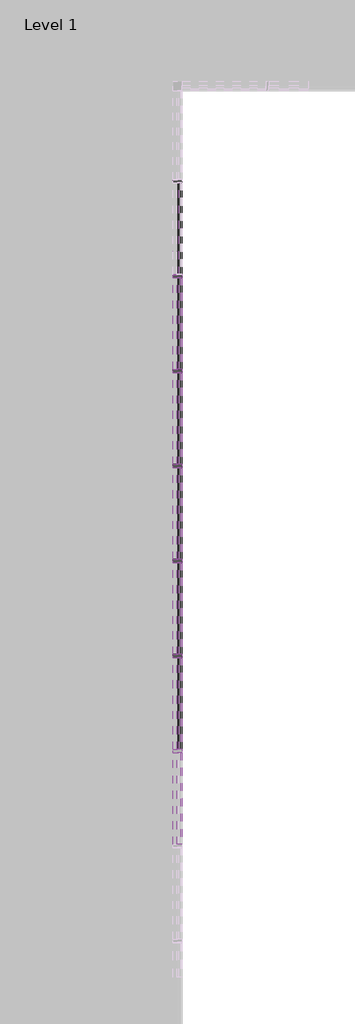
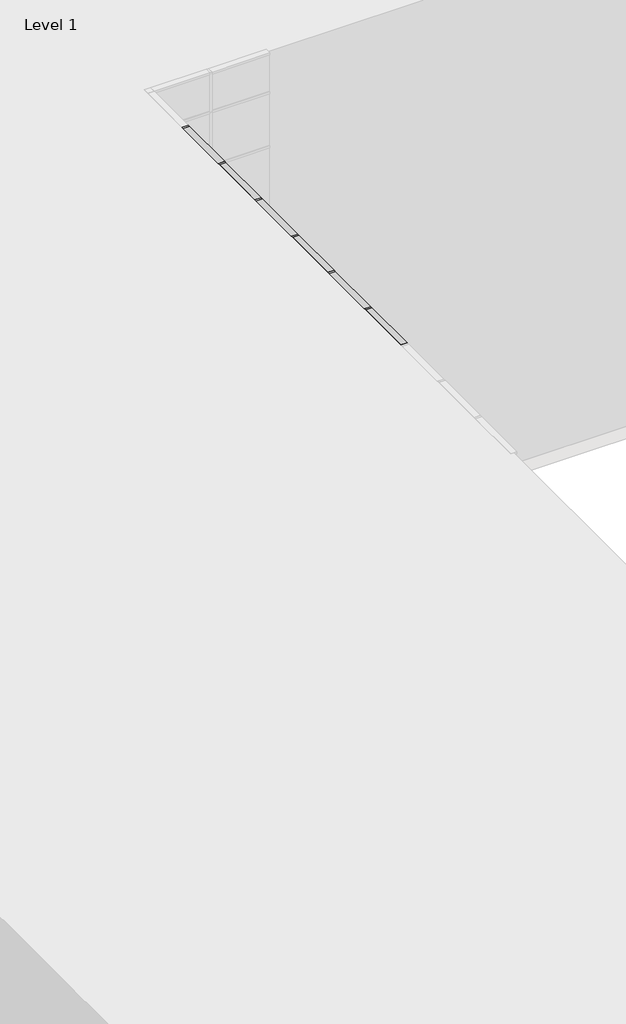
# One storey, part 13 of 18: 90 members, 41 plates.
"""IFC4 building model written with IfcOpenShell, lengths in millimetres."""

from ifc_helpers import new_model, si_unit, origin, place, context, project, spatial, transform, mapped, element, save
from components import rectangular_mullion_50mm_x_150mm_70cae3e1, rectangular_mullion_50mm_x_150mm_5226f6e8, rectangular_mullion_50mm_x_150mm_bbc1c4ea, rectangular_mullion_50mm_x_150mm_36202a7c, rectangular_mullion_50mm_x_150mm_84717ec5, system_panel_glazed_979b1f5c, system_panel_glazed_2f061a2c, system_panel_solid_7338a288, system_panel_solid_0b170172

model = new_model("IFC4")

# Units and contexts
model_context = context("Model", 3, world=origin())
ifc_project = project(units=[si_unit("LENGTHUNIT", "METRE", prefix="MILLI")], contexts=[model_context])

# Site, building, storey
site = spatial("IfcSite", under=ifc_project)
building = spatial("IfcBuilding", under=site)
storey = spatial("IfcBuildingStorey", under=building, Name="Level 1", Elevation=0.0)

# Members
placement = place(None, origin())
rectangular_mullion_50mm_x_150mm_shape = rectangular_mullion_50mm_x_150mm_70cae3e1(model_context)
element("IfcMember", 1, ObjectType="Rectangular Mullion : 50mm x 150mm", at=placement, inside=storey, context=model_context, shape_type="MappedRepresentation", body=[
    mapped(rectangular_mullion_50mm_x_150mm_shape, transform((7447.5010724, 10376.35327, 12400.0), x_axis=(0.0, 0.0, 1.0), y_axis=(1.0, 0.0, 0.0), z_axis=(0.0, 1.0, 0.0))),
])
element("IfcMember", 2, ObjectType="Rectangular Mullion : 50mm x 150mm", at=placement, inside=storey, context=model_context, shape_type="MappedRepresentation", body=[
    mapped(rectangular_mullion_50mm_x_150mm_shape, transform((7447.5010724, 11878.6009259, 12400.0), x_axis=(0.0, 0.0, 1.0), y_axis=(1.0, 0.0, 0.0), z_axis=(0.0, 1.0, 0.0))),
])
element("IfcMember", 3, ObjectType="Rectangular Mullion : 50mm x 150mm", at=placement, inside=storey, context=model_context, shape_type="MappedRepresentation", body=[
    mapped(rectangular_mullion_50mm_x_150mm_shape, transform((7447.5010724, 13380.8485819, 12400.0), x_axis=(0.0, 0.0, 1.0), y_axis=(1.0, 0.0, 0.0), z_axis=(0.0, 1.0, 0.0))),
])
element("IfcMember", 4, ObjectType="Rectangular Mullion : 50mm x 150mm", at=placement, inside=storey, context=model_context, shape_type="MappedRepresentation", body=[
    mapped(rectangular_mullion_50mm_x_150mm_shape, transform((7447.5010724, 14883.0962378, 12400.0), x_axis=(0.0, 0.0, 1.0), y_axis=(1.0, 0.0, 0.0), z_axis=(0.0, 1.0, 0.0))),
])
element("IfcMember", 5, ObjectType="Rectangular Mullion : 50mm x 150mm", at=placement, inside=storey, context=model_context, shape_type="MappedRepresentation", body=[
    mapped(rectangular_mullion_50mm_x_150mm_shape, transform((7447.5010724, 16385.3438937, 12400.0), x_axis=(0.0, 0.0, 1.0), y_axis=(1.0, 0.0, 0.0), z_axis=(0.0, 1.0, 0.0))),
])
element("IfcMember", 6, ObjectType="Rectangular Mullion : 50mm x 150mm", at=placement, inside=storey, context=model_context, shape_type="MappedRepresentation", body=[
    mapped(rectangular_mullion_50mm_x_150mm_shape, transform((7447.5010724, 17887.5915497, 12400.0), x_axis=(0.0, 0.0, 1.0), y_axis=(1.0, 0.0, 0.0), z_axis=(0.0, 1.0, 0.0))),
])
element("IfcMember", 7, ObjectType="Rectangular Mullion : 50mm x 150mm", at=placement, inside=storey, context=model_context, shape_type="MappedRepresentation", body=[
    mapped(rectangular_mullion_50mm_x_150mm_shape, transform((7447.5010724, 8924.1056141, 0.0), x_axis=(0.0, 0.0, -1.0), y_axis=(1.0, 0.0, 0.0), z_axis=(0.0, -1.0, 0.0))),
])
element("IfcMember", 8, ObjectType="Rectangular Mullion : 50mm x 150mm", at=placement, inside=storey, context=model_context, shape_type="MappedRepresentation", body=[
    mapped(rectangular_mullion_50mm_x_150mm_shape, transform((7447.5010724, 10426.35327, 0.0), x_axis=(0.0, 0.0, -1.0), y_axis=(1.0, 0.0, 0.0), z_axis=(0.0, -1.0, 0.0))),
])
element("IfcMember", 9, ObjectType="Rectangular Mullion : 50mm x 150mm", at=placement, inside=storey, context=model_context, shape_type="MappedRepresentation", body=[
    mapped(rectangular_mullion_50mm_x_150mm_shape, transform((7447.5010724, 11928.6009259, 0.0), x_axis=(0.0, 0.0, -1.0), y_axis=(1.0, 0.0, 0.0), z_axis=(0.0, -1.0, 0.0))),
])
element("IfcMember", 10, ObjectType="Rectangular Mullion : 50mm x 150mm", at=placement, inside=storey, context=model_context, shape_type="MappedRepresentation", body=[
    mapped(rectangular_mullion_50mm_x_150mm_shape, transform((7447.5010724, 13430.8485819, 0.0), x_axis=(0.0, 0.0, -1.0), y_axis=(1.0, 0.0, 0.0), z_axis=(0.0, -1.0, 0.0))),
])
element("IfcMember", 11, ObjectType="Rectangular Mullion : 50mm x 150mm", at=placement, inside=storey, context=model_context, shape_type="MappedRepresentation", body=[
    mapped(rectangular_mullion_50mm_x_150mm_shape, transform((7447.5010724, 14933.0962378, 0.0), x_axis=(0.0, 0.0, -1.0), y_axis=(1.0, 0.0, 0.0), z_axis=(0.0, -1.0, 0.0))),
])
element("IfcMember", 12, ObjectType="Rectangular Mullion : 50mm x 150mm", at=placement, inside=storey, context=model_context, shape_type="MappedRepresentation", body=[
    mapped(rectangular_mullion_50mm_x_150mm_shape, transform((7447.5010724, 16435.3438937, 0.0), x_axis=(0.0, 0.0, -1.0), y_axis=(1.0, 0.0, 0.0), z_axis=(0.0, -1.0, 0.0))),
])
rectangular_mullion_50mm_x_150mm_2_shape = rectangular_mullion_50mm_x_150mm_5226f6e8(model_context)
element("IfcMember", 13, ObjectType="Rectangular Mullion : 50mm x 150mm", at=placement, inside=storey, context=model_context, shape_type="MappedRepresentation", body=[
    mapped(rectangular_mullion_50mm_x_150mm_2_shape, transform((7447.5010724, 10376.35327, 3800.0), x_axis=(0.0, 0.0, 1.0), y_axis=(1.0, 0.0, 0.0), z_axis=(0.0, 1.0, 0.0))),
])
element("IfcMember", 14, ObjectType="Rectangular Mullion : 50mm x 150mm", at=placement, inside=storey, context=model_context, shape_type="MappedRepresentation", body=[
    mapped(rectangular_mullion_50mm_x_150mm_2_shape, transform((7447.5010724, 11878.6009259, 3800.0), x_axis=(0.0, 0.0, 1.0), y_axis=(1.0, 0.0, 0.0), z_axis=(0.0, 1.0, 0.0))),
])
element("IfcMember", 15, ObjectType="Rectangular Mullion : 50mm x 150mm", at=placement, inside=storey, context=model_context, shape_type="MappedRepresentation", body=[
    mapped(rectangular_mullion_50mm_x_150mm_2_shape, transform((7447.5010724, 13380.8485819, 3800.0), x_axis=(0.0, 0.0, 1.0), y_axis=(1.0, 0.0, 0.0), z_axis=(0.0, 1.0, 0.0))),
])
element("IfcMember", 16, ObjectType="Rectangular Mullion : 50mm x 150mm", at=placement, inside=storey, context=model_context, shape_type="MappedRepresentation", body=[
    mapped(rectangular_mullion_50mm_x_150mm_2_shape, transform((7447.5010724, 14883.0962378, 3800.0), x_axis=(0.0, 0.0, 1.0), y_axis=(1.0, 0.0, 0.0), z_axis=(0.0, 1.0, 0.0))),
])
element("IfcMember", 17, ObjectType="Rectangular Mullion : 50mm x 150mm", at=placement, inside=storey, context=model_context, shape_type="MappedRepresentation", body=[
    mapped(rectangular_mullion_50mm_x_150mm_2_shape, transform((7447.5010724, 16385.3438937, 3800.0), x_axis=(0.0, 0.0, 1.0), y_axis=(1.0, 0.0, 0.0), z_axis=(0.0, 1.0, 0.0))),
])
element("IfcMember", 18, ObjectType="Rectangular Mullion : 50mm x 150mm", at=placement, inside=storey, context=model_context, shape_type="MappedRepresentation", body=[
    mapped(rectangular_mullion_50mm_x_150mm_2_shape, transform((7447.5010724, 17887.5915497, 3800.0), x_axis=(0.0, 0.0, 1.0), y_axis=(1.0, 0.0, 0.0), z_axis=(0.0, 1.0, 0.0))),
])
element("IfcMember", 19, ObjectType="Rectangular Mullion : 50mm x 150mm", at=placement, inside=storey, context=model_context, shape_type="MappedRepresentation", body=[
    mapped(rectangular_mullion_50mm_x_150mm_2_shape, transform((7447.5010724, 10376.35327, 7600.0), x_axis=(0.0, 0.0, 1.0), y_axis=(1.0, 0.0, 0.0), z_axis=(0.0, 1.0, 0.0))),
])
element("IfcMember", 20, ObjectType="Rectangular Mullion : 50mm x 150mm", at=placement, inside=storey, context=model_context, shape_type="MappedRepresentation", body=[
    mapped(rectangular_mullion_50mm_x_150mm_2_shape, transform((7447.5010724, 11878.6009259, 7600.0), x_axis=(0.0, 0.0, 1.0), y_axis=(1.0, 0.0, 0.0), z_axis=(0.0, 1.0, 0.0))),
])
element("IfcMember", 21, ObjectType="Rectangular Mullion : 50mm x 150mm", at=placement, inside=storey, context=model_context, shape_type="MappedRepresentation", body=[
    mapped(rectangular_mullion_50mm_x_150mm_2_shape, transform((7447.5010724, 13380.8485819, 7600.0), x_axis=(0.0, 0.0, 1.0), y_axis=(1.0, 0.0, 0.0), z_axis=(0.0, 1.0, 0.0))),
])
element("IfcMember", 22, ObjectType="Rectangular Mullion : 50mm x 150mm", at=placement, inside=storey, context=model_context, shape_type="MappedRepresentation", body=[
    mapped(rectangular_mullion_50mm_x_150mm_2_shape, transform((7447.5010724, 14883.0962378, 7600.0), x_axis=(0.0, 0.0, 1.0), y_axis=(1.0, 0.0, 0.0), z_axis=(0.0, 1.0, 0.0))),
])
element("IfcMember", 23, ObjectType="Rectangular Mullion : 50mm x 150mm", at=placement, inside=storey, context=model_context, shape_type="MappedRepresentation", body=[
    mapped(rectangular_mullion_50mm_x_150mm_2_shape, transform((7447.5010724, 16385.3438937, 7600.0), x_axis=(0.0, 0.0, 1.0), y_axis=(1.0, 0.0, 0.0), z_axis=(0.0, 1.0, 0.0))),
])
element("IfcMember", 24, ObjectType="Rectangular Mullion : 50mm x 150mm", at=placement, inside=storey, context=model_context, shape_type="MappedRepresentation", body=[
    mapped(rectangular_mullion_50mm_x_150mm_2_shape, transform((7447.5010724, 17887.5915497, 7600.0), x_axis=(0.0, 0.0, 1.0), y_axis=(1.0, 0.0, 0.0), z_axis=(0.0, 1.0, 0.0))),
])
element("IfcMember", 25, ObjectType="Rectangular Mullion : 50mm x 150mm", at=placement, inside=storey, context=model_context, shape_type="MappedRepresentation", body=[
    mapped(rectangular_mullion_50mm_x_150mm_2_shape, transform((7447.5010724, 10376.35327, 11400.0), x_axis=(0.0, 0.0, 1.0), y_axis=(1.0, 0.0, 0.0), z_axis=(0.0, 1.0, 0.0))),
])
element("IfcMember", 26, ObjectType="Rectangular Mullion : 50mm x 150mm", at=placement, inside=storey, context=model_context, shape_type="MappedRepresentation", body=[
    mapped(rectangular_mullion_50mm_x_150mm_2_shape, transform((7447.5010724, 11878.6009259, 11400.0), x_axis=(0.0, 0.0, 1.0), y_axis=(1.0, 0.0, 0.0), z_axis=(0.0, 1.0, 0.0))),
])
element("IfcMember", 27, ObjectType="Rectangular Mullion : 50mm x 150mm", at=placement, inside=storey, context=model_context, shape_type="MappedRepresentation", body=[
    mapped(rectangular_mullion_50mm_x_150mm_2_shape, transform((7447.5010724, 13380.8485819, 11400.0), x_axis=(0.0, 0.0, 1.0), y_axis=(1.0, 0.0, 0.0), z_axis=(0.0, 1.0, 0.0))),
])
element("IfcMember", 28, ObjectType="Rectangular Mullion : 50mm x 150mm", at=placement, inside=storey, context=model_context, shape_type="MappedRepresentation", body=[
    mapped(rectangular_mullion_50mm_x_150mm_2_shape, transform((7447.5010724, 14883.0962378, 11400.0), x_axis=(0.0, 0.0, 1.0), y_axis=(1.0, 0.0, 0.0), z_axis=(0.0, 1.0, 0.0))),
])
element("IfcMember", 29, ObjectType="Rectangular Mullion : 50mm x 150mm", at=placement, inside=storey, context=model_context, shape_type="MappedRepresentation", body=[
    mapped(rectangular_mullion_50mm_x_150mm_2_shape, transform((7447.5010724, 16385.3438937, 11400.0), x_axis=(0.0, 0.0, 1.0), y_axis=(1.0, 0.0, 0.0), z_axis=(0.0, 1.0, 0.0))),
])
element("IfcMember", 30, ObjectType="Rectangular Mullion : 50mm x 150mm", at=placement, inside=storey, context=model_context, shape_type="MappedRepresentation", body=[
    mapped(rectangular_mullion_50mm_x_150mm_2_shape, transform((7447.5010724, 17887.5915497, 11400.0), x_axis=(0.0, 0.0, 1.0), y_axis=(1.0, 0.0, 0.0), z_axis=(0.0, 1.0, 0.0))),
])
element("IfcMember", 31, ObjectType="Rectangular Mullion : 50mm x 150mm", at=placement, inside=storey, context=model_context, shape_type="MappedRepresentation", body=[
    mapped(rectangular_mullion_50mm_x_150mm_2_shape, transform((7447.5010724, 10376.35327, 10040.0), x_axis=(0.0, 0.0, 1.0), y_axis=(1.0, 0.0, 0.0), z_axis=(0.0, 1.0, 0.0))),
])
element("IfcMember", 32, ObjectType="Rectangular Mullion : 50mm x 150mm", at=placement, inside=storey, context=model_context, shape_type="MappedRepresentation", body=[
    mapped(rectangular_mullion_50mm_x_150mm_2_shape, transform((7447.5010724, 11878.6009259, 10040.0), x_axis=(0.0, 0.0, 1.0), y_axis=(1.0, 0.0, 0.0), z_axis=(0.0, 1.0, 0.0))),
])
element("IfcMember", 33, ObjectType="Rectangular Mullion : 50mm x 150mm", at=placement, inside=storey, context=model_context, shape_type="MappedRepresentation", body=[
    mapped(rectangular_mullion_50mm_x_150mm_2_shape, transform((7447.5010724, 13380.8485819, 10040.0), x_axis=(0.0, 0.0, 1.0), y_axis=(1.0, 0.0, 0.0), z_axis=(0.0, 1.0, 0.0))),
])
element("IfcMember", 34, ObjectType="Rectangular Mullion : 50mm x 150mm", at=placement, inside=storey, context=model_context, shape_type="MappedRepresentation", body=[
    mapped(rectangular_mullion_50mm_x_150mm_2_shape, transform((7447.5010724, 14883.0962378, 10040.0), x_axis=(0.0, 0.0, 1.0), y_axis=(1.0, 0.0, 0.0), z_axis=(0.0, 1.0, 0.0))),
])
element("IfcMember", 35, ObjectType="Rectangular Mullion : 50mm x 150mm", at=placement, inside=storey, context=model_context, shape_type="MappedRepresentation", body=[
    mapped(rectangular_mullion_50mm_x_150mm_2_shape, transform((7447.5010724, 16385.3438937, 10040.0), x_axis=(0.0, 0.0, 1.0), y_axis=(1.0, 0.0, 0.0), z_axis=(0.0, 1.0, 0.0))),
])
element("IfcMember", 36, ObjectType="Rectangular Mullion : 50mm x 150mm", at=placement, inside=storey, context=model_context, shape_type="MappedRepresentation", body=[
    mapped(rectangular_mullion_50mm_x_150mm_2_shape, transform((7447.5010724, 17887.5915497, 10040.0), x_axis=(0.0, 0.0, 1.0), y_axis=(1.0, 0.0, 0.0), z_axis=(0.0, 1.0, 0.0))),
])
element("IfcMember", 37, ObjectType="Rectangular Mullion : 50mm x 150mm", at=placement, inside=storey, context=model_context, shape_type="MappedRepresentation", body=[
    mapped(rectangular_mullion_50mm_x_150mm_2_shape, transform((7447.5010724, 8874.1056141, 6240.0), x_axis=(0.0, 0.0, 1.0), y_axis=(1.0, 0.0, 0.0), z_axis=(0.0, 1.0, 0.0))),
])
element("IfcMember", 38, ObjectType="Rectangular Mullion : 50mm x 150mm", at=placement, inside=storey, context=model_context, shape_type="MappedRepresentation", body=[
    mapped(rectangular_mullion_50mm_x_150mm_2_shape, transform((7447.5010724, 10376.35327, 6240.0), x_axis=(0.0, 0.0, 1.0), y_axis=(1.0, 0.0, 0.0), z_axis=(0.0, 1.0, 0.0))),
])
element("IfcMember", 39, ObjectType="Rectangular Mullion : 50mm x 150mm", at=placement, inside=storey, context=model_context, shape_type="MappedRepresentation", body=[
    mapped(rectangular_mullion_50mm_x_150mm_2_shape, transform((7447.5010724, 11878.6009259, 6240.0), x_axis=(0.0, 0.0, 1.0), y_axis=(1.0, 0.0, 0.0), z_axis=(0.0, 1.0, 0.0))),
])
element("IfcMember", 40, ObjectType="Rectangular Mullion : 50mm x 150mm", at=placement, inside=storey, context=model_context, shape_type="MappedRepresentation", body=[
    mapped(rectangular_mullion_50mm_x_150mm_2_shape, transform((7447.5010724, 13380.8485819, 6240.0), x_axis=(0.0, 0.0, 1.0), y_axis=(1.0, 0.0, 0.0), z_axis=(0.0, 1.0, 0.0))),
])
element("IfcMember", 41, ObjectType="Rectangular Mullion : 50mm x 150mm", at=placement, inside=storey, context=model_context, shape_type="MappedRepresentation", body=[
    mapped(rectangular_mullion_50mm_x_150mm_2_shape, transform((7447.5010724, 14883.0962378, 6240.0), x_axis=(0.0, 0.0, 1.0), y_axis=(1.0, 0.0, 0.0), z_axis=(0.0, 1.0, 0.0))),
])
element("IfcMember", 42, ObjectType="Rectangular Mullion : 50mm x 150mm", at=placement, inside=storey, context=model_context, shape_type="MappedRepresentation", body=[
    mapped(rectangular_mullion_50mm_x_150mm_2_shape, transform((7447.5010724, 16385.3438937, 6240.0), x_axis=(0.0, 0.0, 1.0), y_axis=(1.0, 0.0, 0.0), z_axis=(0.0, 1.0, 0.0))),
])
element("IfcMember", 43, ObjectType="Rectangular Mullion : 50mm x 150mm", at=placement, inside=storey, context=model_context, shape_type="MappedRepresentation", body=[
    mapped(rectangular_mullion_50mm_x_150mm_2_shape, transform((7447.5010724, 8874.1056141, 2440.0), x_axis=(0.0, 0.0, 1.0), y_axis=(1.0, 0.0, 0.0), z_axis=(0.0, 1.0, 0.0))),
])
element("IfcMember", 44, ObjectType="Rectangular Mullion : 50mm x 150mm", at=placement, inside=storey, context=model_context, shape_type="MappedRepresentation", body=[
    mapped(rectangular_mullion_50mm_x_150mm_2_shape, transform((7447.5010724, 10376.35327, 2440.0), x_axis=(0.0, 0.0, 1.0), y_axis=(1.0, 0.0, 0.0), z_axis=(0.0, 1.0, 0.0))),
])
element("IfcMember", 45, ObjectType="Rectangular Mullion : 50mm x 150mm", at=placement, inside=storey, context=model_context, shape_type="MappedRepresentation", body=[
    mapped(rectangular_mullion_50mm_x_150mm_2_shape, transform((7447.5010724, 11878.6009259, 2440.0), x_axis=(0.0, 0.0, 1.0), y_axis=(1.0, 0.0, 0.0), z_axis=(0.0, 1.0, 0.0))),
])
element("IfcMember", 46, ObjectType="Rectangular Mullion : 50mm x 150mm", at=placement, inside=storey, context=model_context, shape_type="MappedRepresentation", body=[
    mapped(rectangular_mullion_50mm_x_150mm_2_shape, transform((7447.5010724, 13380.8485819, 2440.0), x_axis=(0.0, 0.0, 1.0), y_axis=(1.0, 0.0, 0.0), z_axis=(0.0, 1.0, 0.0))),
])
element("IfcMember", 47, ObjectType="Rectangular Mullion : 50mm x 150mm", at=placement, inside=storey, context=model_context, shape_type="MappedRepresentation", body=[
    mapped(rectangular_mullion_50mm_x_150mm_2_shape, transform((7447.5010724, 14883.0962378, 2440.0), x_axis=(0.0, 0.0, 1.0), y_axis=(1.0, 0.0, 0.0), z_axis=(0.0, 1.0, 0.0))),
])
element("IfcMember", 48, ObjectType="Rectangular Mullion : 50mm x 150mm", at=placement, inside=storey, context=model_context, shape_type="MappedRepresentation", body=[
    mapped(rectangular_mullion_50mm_x_150mm_2_shape, transform((7447.5010724, 16385.3438937, 2440.0), x_axis=(0.0, 0.0, 1.0), y_axis=(1.0, 0.0, 0.0), z_axis=(0.0, 1.0, 0.0))),
])
rectangular_mullion_50mm_x_150mm_3_shape = rectangular_mullion_50mm_x_150mm_bbc1c4ea(model_context)
element("IfcMember", 49, ObjectType="Rectangular Mullion : 50mm x 150mm", at=placement, inside=storey, context=model_context, shape_type="MappedRepresentation", body=[
    mapped(rectangular_mullion_50mm_x_150mm_3_shape, transform((7447.5010724, 10401.35327, 11400.0), x_axis=(0.0, 1.0, 0.0), y_axis=(1.0, 0.0, 0.0), z_axis=(0.0, 0.0, -1.0))),
])
element("IfcMember", 50, ObjectType="Rectangular Mullion : 50mm x 150mm", at=placement, inside=storey, context=model_context, shape_type="MappedRepresentation", body=[
    mapped(rectangular_mullion_50mm_x_150mm_3_shape, transform((7447.5010724, 11903.6009259, 11400.0), x_axis=(0.0, 1.0, 0.0), y_axis=(1.0, 0.0, 0.0), z_axis=(0.0, 0.0, -1.0))),
])
element("IfcMember", 51, ObjectType="Rectangular Mullion : 50mm x 150mm", at=placement, inside=storey, context=model_context, shape_type="MappedRepresentation", body=[
    mapped(rectangular_mullion_50mm_x_150mm_3_shape, transform((7447.5010724, 13405.8485819, 11400.0), x_axis=(0.0, 1.0, 0.0), y_axis=(1.0, 0.0, 0.0), z_axis=(0.0, 0.0, -1.0))),
])
element("IfcMember", 52, ObjectType="Rectangular Mullion : 50mm x 150mm", at=placement, inside=storey, context=model_context, shape_type="MappedRepresentation", body=[
    mapped(rectangular_mullion_50mm_x_150mm_3_shape, transform((7447.5010724, 14908.0962378, 11400.0), x_axis=(0.0, 1.0, 0.0), y_axis=(1.0, 0.0, 0.0), z_axis=(0.0, 0.0, -1.0))),
])
element("IfcMember", 53, ObjectType="Rectangular Mullion : 50mm x 150mm", at=placement, inside=storey, context=model_context, shape_type="MappedRepresentation", body=[
    mapped(rectangular_mullion_50mm_x_150mm_3_shape, transform((7447.5010724, 16410.3438937, 11400.0), x_axis=(0.0, 1.0, 0.0), y_axis=(1.0, 0.0, 0.0), z_axis=(0.0, 0.0, -1.0))),
])
element("IfcMember", 54, ObjectType="Rectangular Mullion : 50mm x 150mm", at=placement, inside=storey, context=model_context, shape_type="MappedRepresentation", body=[
    mapped(rectangular_mullion_50mm_x_150mm_3_shape, transform((7447.5010724, 17912.5915497, 11400.0), x_axis=(0.0, 1.0, 0.0), y_axis=(1.0, 0.0, 0.0), z_axis=(0.0, 0.0, -1.0))),
])
rectangular_mullion_50mm_x_150mm_4_shape = rectangular_mullion_50mm_x_150mm_36202a7c(model_context)
element("IfcMember", 55, ObjectType="Rectangular Mullion : 50mm x 150mm", at=placement, inside=storey, context=model_context, shape_type="MappedRepresentation", body=[
    mapped(rectangular_mullion_50mm_x_150mm_4_shape, transform((7447.5010724, 10401.35327, 0.0), x_axis=(0.0, 1.0, 0.0), y_axis=(1.0, 0.0, 0.0), z_axis=(0.0, 0.0, -1.0))),
])
element("IfcMember", 56, ObjectType="Rectangular Mullion : 50mm x 150mm", at=placement, inside=storey, context=model_context, shape_type="MappedRepresentation", body=[
    mapped(rectangular_mullion_50mm_x_150mm_4_shape, transform((7447.5010724, 11903.6009259, 0.0), x_axis=(0.0, 1.0, 0.0), y_axis=(1.0, 0.0, 0.0), z_axis=(0.0, 0.0, -1.0))),
])
element("IfcMember", 57, ObjectType="Rectangular Mullion : 50mm x 150mm", at=placement, inside=storey, context=model_context, shape_type="MappedRepresentation", body=[
    mapped(rectangular_mullion_50mm_x_150mm_4_shape, transform((7447.5010724, 13405.8485819, 0.0), x_axis=(0.0, 1.0, 0.0), y_axis=(1.0, 0.0, 0.0), z_axis=(0.0, 0.0, -1.0))),
])
element("IfcMember", 58, ObjectType="Rectangular Mullion : 50mm x 150mm", at=placement, inside=storey, context=model_context, shape_type="MappedRepresentation", body=[
    mapped(rectangular_mullion_50mm_x_150mm_4_shape, transform((7447.5010724, 14908.0962378, 0.0), x_axis=(0.0, 1.0, 0.0), y_axis=(1.0, 0.0, 0.0), z_axis=(0.0, 0.0, -1.0))),
])
element("IfcMember", 59, ObjectType="Rectangular Mullion : 50mm x 150mm", at=placement, inside=storey, context=model_context, shape_type="MappedRepresentation", body=[
    mapped(rectangular_mullion_50mm_x_150mm_4_shape, transform((7447.5010724, 16410.3438937, 0.0), x_axis=(0.0, 1.0, 0.0), y_axis=(1.0, 0.0, 0.0), z_axis=(0.0, 0.0, -1.0))),
])
element("IfcMember", 60, ObjectType="Rectangular Mullion : 50mm x 150mm", at=placement, inside=storey, context=model_context, shape_type="MappedRepresentation", body=[
    mapped(rectangular_mullion_50mm_x_150mm_4_shape, transform((7447.5010724, 17912.5915497, 0.0), x_axis=(0.0, 1.0, 0.0), y_axis=(1.0, 0.0, 0.0), z_axis=(0.0, 0.0, -1.0))),
])
rectangular_mullion_50mm_x_150mm_5_shape = rectangular_mullion_50mm_x_150mm_84717ec5(model_context)
element("IfcMember", 61, ObjectType="Rectangular Mullion : 50mm x 150mm", at=placement, inside=storey, context=model_context, shape_type="MappedRepresentation", body=[
    mapped(rectangular_mullion_50mm_x_150mm_5_shape, transform((7447.5010724, 10401.35327, 10040.0), x_axis=(0.0, 1.0, 0.0), y_axis=(1.0, 0.0, 0.0), z_axis=(0.0, 0.0, -1.0))),
])
element("IfcMember", 62, ObjectType="Rectangular Mullion : 50mm x 150mm", at=placement, inside=storey, context=model_context, shape_type="MappedRepresentation", body=[
    mapped(rectangular_mullion_50mm_x_150mm_5_shape, transform((7447.5010724, 11903.6009259, 10040.0), x_axis=(0.0, 1.0, 0.0), y_axis=(1.0, 0.0, 0.0), z_axis=(0.0, 0.0, -1.0))),
])
element("IfcMember", 63, ObjectType="Rectangular Mullion : 50mm x 150mm", at=placement, inside=storey, context=model_context, shape_type="MappedRepresentation", body=[
    mapped(rectangular_mullion_50mm_x_150mm_5_shape, transform((7447.5010724, 13405.8485819, 10040.0), x_axis=(0.0, 1.0, 0.0), y_axis=(1.0, 0.0, 0.0), z_axis=(0.0, 0.0, -1.0))),
])
element("IfcMember", 64, ObjectType="Rectangular Mullion : 50mm x 150mm", at=placement, inside=storey, context=model_context, shape_type="MappedRepresentation", body=[
    mapped(rectangular_mullion_50mm_x_150mm_5_shape, transform((7447.5010724, 14908.0962378, 10040.0), x_axis=(0.0, 1.0, 0.0), y_axis=(1.0, 0.0, 0.0), z_axis=(0.0, 0.0, -1.0))),
])
element("IfcMember", 65, ObjectType="Rectangular Mullion : 50mm x 150mm", at=placement, inside=storey, context=model_context, shape_type="MappedRepresentation", body=[
    mapped(rectangular_mullion_50mm_x_150mm_5_shape, transform((7447.5010724, 16410.3438937, 10040.0), x_axis=(0.0, 1.0, 0.0), y_axis=(1.0, 0.0, 0.0), z_axis=(0.0, 0.0, -1.0))),
])
element("IfcMember", 66, ObjectType="Rectangular Mullion : 50mm x 150mm", at=placement, inside=storey, context=model_context, shape_type="MappedRepresentation", body=[
    mapped(rectangular_mullion_50mm_x_150mm_5_shape, transform((7447.5010724, 17912.5915497, 10040.0), x_axis=(0.0, 1.0, 0.0), y_axis=(1.0, 0.0, 0.0), z_axis=(0.0, 0.0, -1.0))),
])
element("IfcMember", 67, ObjectType="Rectangular Mullion : 50mm x 150mm", at=placement, inside=storey, context=model_context, shape_type="MappedRepresentation", body=[
    mapped(rectangular_mullion_50mm_x_150mm_5_shape, transform((7447.5010724, 8899.1056141, 6240.0), x_axis=(0.0, 1.0, 0.0), y_axis=(1.0, 0.0, 0.0), z_axis=(0.0, 0.0, -1.0))),
])
element("IfcMember", 68, ObjectType="Rectangular Mullion : 50mm x 150mm", at=placement, inside=storey, context=model_context, shape_type="MappedRepresentation", body=[
    mapped(rectangular_mullion_50mm_x_150mm_5_shape, transform((7447.5010724, 10401.35327, 6240.0), x_axis=(0.0, 1.0, 0.0), y_axis=(1.0, 0.0, 0.0), z_axis=(0.0, 0.0, -1.0))),
])
element("IfcMember", 69, ObjectType="Rectangular Mullion : 50mm x 150mm", at=placement, inside=storey, context=model_context, shape_type="MappedRepresentation", body=[
    mapped(rectangular_mullion_50mm_x_150mm_5_shape, transform((7447.5010724, 11903.6009259, 6240.0), x_axis=(0.0, 1.0, 0.0), y_axis=(1.0, 0.0, 0.0), z_axis=(0.0, 0.0, -1.0))),
])
element("IfcMember", 70, ObjectType="Rectangular Mullion : 50mm x 150mm", at=placement, inside=storey, context=model_context, shape_type="MappedRepresentation", body=[
    mapped(rectangular_mullion_50mm_x_150mm_5_shape, transform((7447.5010724, 13405.8485819, 6240.0), x_axis=(0.0, 1.0, 0.0), y_axis=(1.0, 0.0, 0.0), z_axis=(0.0, 0.0, -1.0))),
])
element("IfcMember", 71, ObjectType="Rectangular Mullion : 50mm x 150mm", at=placement, inside=storey, context=model_context, shape_type="MappedRepresentation", body=[
    mapped(rectangular_mullion_50mm_x_150mm_5_shape, transform((7447.5010724, 14908.0962378, 6240.0), x_axis=(0.0, 1.0, 0.0), y_axis=(1.0, 0.0, 0.0), z_axis=(0.0, 0.0, -1.0))),
])
element("IfcMember", 72, ObjectType="Rectangular Mullion : 50mm x 150mm", at=placement, inside=storey, context=model_context, shape_type="MappedRepresentation", body=[
    mapped(rectangular_mullion_50mm_x_150mm_5_shape, transform((7447.5010724, 16410.3438937, 6240.0), x_axis=(0.0, 1.0, 0.0), y_axis=(1.0, 0.0, 0.0), z_axis=(0.0, 0.0, -1.0))),
])
element("IfcMember", 73, ObjectType="Rectangular Mullion : 50mm x 150mm", at=placement, inside=storey, context=model_context, shape_type="MappedRepresentation", body=[
    mapped(rectangular_mullion_50mm_x_150mm_5_shape, transform((7447.5010724, 8899.1056141, 2440.0), x_axis=(0.0, 1.0, 0.0), y_axis=(1.0, 0.0, 0.0), z_axis=(0.0, 0.0, -1.0))),
])
element("IfcMember", 74, ObjectType="Rectangular Mullion : 50mm x 150mm", at=placement, inside=storey, context=model_context, shape_type="MappedRepresentation", body=[
    mapped(rectangular_mullion_50mm_x_150mm_5_shape, transform((7447.5010724, 10401.35327, 2440.0), x_axis=(0.0, 1.0, 0.0), y_axis=(1.0, 0.0, 0.0), z_axis=(0.0, 0.0, -1.0))),
])
element("IfcMember", 75, ObjectType="Rectangular Mullion : 50mm x 150mm", at=placement, inside=storey, context=model_context, shape_type="MappedRepresentation", body=[
    mapped(rectangular_mullion_50mm_x_150mm_5_shape, transform((7447.5010724, 11903.6009259, 2440.0), x_axis=(0.0, 1.0, 0.0), y_axis=(1.0, 0.0, 0.0), z_axis=(0.0, 0.0, -1.0))),
])
element("IfcMember", 76, ObjectType="Rectangular Mullion : 50mm x 150mm", at=placement, inside=storey, context=model_context, shape_type="MappedRepresentation", body=[
    mapped(rectangular_mullion_50mm_x_150mm_5_shape, transform((7447.5010724, 13405.8485819, 2440.0), x_axis=(0.0, 1.0, 0.0), y_axis=(1.0, 0.0, 0.0), z_axis=(0.0, 0.0, -1.0))),
])
element("IfcMember", 77, ObjectType="Rectangular Mullion : 50mm x 150mm", at=placement, inside=storey, context=model_context, shape_type="MappedRepresentation", body=[
    mapped(rectangular_mullion_50mm_x_150mm_5_shape, transform((7447.5010724, 14908.0962378, 2440.0), x_axis=(0.0, 1.0, 0.0), y_axis=(1.0, 0.0, 0.0), z_axis=(0.0, 0.0, -1.0))),
])
element("IfcMember", 78, ObjectType="Rectangular Mullion : 50mm x 150mm", at=placement, inside=storey, context=model_context, shape_type="MappedRepresentation", body=[
    mapped(rectangular_mullion_50mm_x_150mm_5_shape, transform((7447.5010724, 16410.3438937, 2440.0), x_axis=(0.0, 1.0, 0.0), y_axis=(1.0, 0.0, 0.0), z_axis=(0.0, 0.0, -1.0))),
])
element("IfcMember", 79, ObjectType="Rectangular Mullion : 50mm x 150mm", at=placement, inside=storey, context=model_context, shape_type="MappedRepresentation", body=[
    mapped(rectangular_mullion_50mm_x_150mm_4_shape, transform((7447.5010724, 10401.35327, 3800.0), x_axis=(0.0, 1.0, 0.0), y_axis=(1.0, 0.0, 0.0), z_axis=(0.0, 0.0, -1.0))),
])
element("IfcMember", 80, ObjectType="Rectangular Mullion : 50mm x 150mm", at=placement, inside=storey, context=model_context, shape_type="MappedRepresentation", body=[
    mapped(rectangular_mullion_50mm_x_150mm_4_shape, transform((7447.5010724, 11903.6009259, 3800.0), x_axis=(0.0, 1.0, 0.0), y_axis=(1.0, 0.0, 0.0), z_axis=(0.0, 0.0, -1.0))),
])
element("IfcMember", 81, ObjectType="Rectangular Mullion : 50mm x 150mm", at=placement, inside=storey, context=model_context, shape_type="MappedRepresentation", body=[
    mapped(rectangular_mullion_50mm_x_150mm_4_shape, transform((7447.5010724, 13405.8485819, 3800.0), x_axis=(0.0, 1.0, 0.0), y_axis=(1.0, 0.0, 0.0), z_axis=(0.0, 0.0, -1.0))),
])
element("IfcMember", 82, ObjectType="Rectangular Mullion : 50mm x 150mm", at=placement, inside=storey, context=model_context, shape_type="MappedRepresentation", body=[
    mapped(rectangular_mullion_50mm_x_150mm_4_shape, transform((7447.5010724, 14908.0962378, 3800.0), x_axis=(0.0, 1.0, 0.0), y_axis=(1.0, 0.0, 0.0), z_axis=(0.0, 0.0, -1.0))),
])
element("IfcMember", 83, ObjectType="Rectangular Mullion : 50mm x 150mm", at=placement, inside=storey, context=model_context, shape_type="MappedRepresentation", body=[
    mapped(rectangular_mullion_50mm_x_150mm_4_shape, transform((7447.5010724, 16410.3438937, 3800.0), x_axis=(0.0, 1.0, 0.0), y_axis=(1.0, 0.0, 0.0), z_axis=(0.0, 0.0, -1.0))),
])
element("IfcMember", 84, ObjectType="Rectangular Mullion : 50mm x 150mm", at=placement, inside=storey, context=model_context, shape_type="MappedRepresentation", body=[
    mapped(rectangular_mullion_50mm_x_150mm_4_shape, transform((7447.5010724, 17912.5915497, 3800.0), x_axis=(0.0, 1.0, 0.0), y_axis=(1.0, 0.0, 0.0), z_axis=(0.0, 0.0, -1.0))),
])
element("IfcMember", 85, ObjectType="Rectangular Mullion : 50mm x 150mm", at=placement, inside=storey, context=model_context, shape_type="MappedRepresentation", body=[
    mapped(rectangular_mullion_50mm_x_150mm_4_shape, transform((7447.5010724, 10401.35327, 7600.0), x_axis=(0.0, 1.0, 0.0), y_axis=(1.0, 0.0, 0.0), z_axis=(0.0, 0.0, -1.0))),
])
element("IfcMember", 86, ObjectType="Rectangular Mullion : 50mm x 150mm", at=placement, inside=storey, context=model_context, shape_type="MappedRepresentation", body=[
    mapped(rectangular_mullion_50mm_x_150mm_4_shape, transform((7447.5010724, 11903.6009259, 7600.0), x_axis=(0.0, 1.0, 0.0), y_axis=(1.0, 0.0, 0.0), z_axis=(0.0, 0.0, -1.0))),
])
element("IfcMember", 87, ObjectType="Rectangular Mullion : 50mm x 150mm", at=placement, inside=storey, context=model_context, shape_type="MappedRepresentation", body=[
    mapped(rectangular_mullion_50mm_x_150mm_4_shape, transform((7447.5010724, 13405.8485819, 7600.0), x_axis=(0.0, 1.0, 0.0), y_axis=(1.0, 0.0, 0.0), z_axis=(0.0, 0.0, -1.0))),
])
element("IfcMember", 88, ObjectType="Rectangular Mullion : 50mm x 150mm", at=placement, inside=storey, context=model_context, shape_type="MappedRepresentation", body=[
    mapped(rectangular_mullion_50mm_x_150mm_4_shape, transform((7447.5010724, 14908.0962378, 7600.0), x_axis=(0.0, 1.0, 0.0), y_axis=(1.0, 0.0, 0.0), z_axis=(0.0, 0.0, -1.0))),
])
element("IfcMember", 89, ObjectType="Rectangular Mullion : 50mm x 150mm", at=placement, inside=storey, context=model_context, shape_type="MappedRepresentation", body=[
    mapped(rectangular_mullion_50mm_x_150mm_4_shape, transform((7447.5010724, 16410.3438937, 7600.0), x_axis=(0.0, 1.0, 0.0), y_axis=(1.0, 0.0, 0.0), z_axis=(0.0, 0.0, -1.0))),
])
element("IfcMember", 90, ObjectType="Rectangular Mullion : 50mm x 150mm", at=placement, inside=storey, context=model_context, shape_type="MappedRepresentation", body=[
    mapped(rectangular_mullion_50mm_x_150mm_4_shape, transform((7447.5010724, 17912.5915497, 7600.0), x_axis=(0.0, 1.0, 0.0), y_axis=(1.0, 0.0, 0.0), z_axis=(0.0, 0.0, -1.0))),
])

# Plates
system_panel_glazed_shape = system_panel_glazed_979b1f5c(model_context)
element("IfcPlate", 91, ObjectType="System Panel : Glazed", at=placement, inside=storey, context=model_context, shape_type="MappedRepresentation", body=[
    mapped(system_panel_glazed_shape, transform((7447.5010724, 9650.229442, 3825.0), x_axis=(0.0, 1.0, 0.0), y_axis=(-1.0, 0.0, 0.0), z_axis=(0.0, 0.0, 1.0))),
])
element("IfcPlate", 92, ObjectType="System Panel : Glazed", at=placement, inside=storey, context=model_context, shape_type="MappedRepresentation", body=[
    mapped(system_panel_glazed_shape, transform((7447.5010724, 11152.477098, 3825.0), x_axis=(0.0, 1.0, 0.0), y_axis=(-1.0, 0.0, 0.0), z_axis=(0.0, 0.0, 1.0))),
])
element("IfcPlate", 93, ObjectType="System Panel : Glazed", at=placement, inside=storey, context=model_context, shape_type="MappedRepresentation", body=[
    mapped(system_panel_glazed_shape, transform((7447.5010724, 12654.7247539, 3825.0), x_axis=(0.0, 1.0, 0.0), y_axis=(-1.0, 0.0, 0.0), z_axis=(0.0, 0.0, 1.0))),
])
element("IfcPlate", 94, ObjectType="System Panel : Glazed", at=placement, inside=storey, context=model_context, shape_type="MappedRepresentation", body=[
    mapped(system_panel_glazed_shape, transform((7447.5010724, 14156.9724098, 3825.0), x_axis=(0.0, 1.0, 0.0), y_axis=(-1.0, 0.0, 0.0), z_axis=(0.0, 0.0, 1.0))),
])
element("IfcPlate", 95, ObjectType="System Panel : Glazed", at=placement, inside=storey, context=model_context, shape_type="MappedRepresentation", body=[
    mapped(system_panel_glazed_shape, transform((7447.5010724, 15659.2200658, 3825.0), x_axis=(0.0, 1.0, 0.0), y_axis=(-1.0, 0.0, 0.0), z_axis=(0.0, 0.0, 1.0))),
])
element("IfcPlate", 96, ObjectType="System Panel : Glazed", at=placement, inside=storey, context=model_context, shape_type="MappedRepresentation", body=[
    mapped(system_panel_glazed_shape, transform((7447.5010724, 17161.4677217, 3825.0), x_axis=(0.0, 1.0, 0.0), y_axis=(-1.0, 0.0, 0.0), z_axis=(0.0, 0.0, 1.0))),
])
element("IfcPlate", 97, ObjectType="System Panel : Glazed", at=placement, inside=storey, context=model_context, shape_type="MappedRepresentation", body=[
    mapped(system_panel_glazed_shape, transform((7447.5010724, 9650.229442, 7625.0), x_axis=(0.0, 1.0, 0.0), y_axis=(-1.0, 0.0, 0.0), z_axis=(0.0, 0.0, 1.0))),
])
element("IfcPlate", 98, ObjectType="System Panel : Glazed", at=placement, inside=storey, context=model_context, shape_type="MappedRepresentation", body=[
    mapped(system_panel_glazed_shape, transform((7447.5010724, 11152.477098, 7625.0), x_axis=(0.0, 1.0, 0.0), y_axis=(-1.0, 0.0, 0.0), z_axis=(0.0, 0.0, 1.0))),
])
element("IfcPlate", 99, ObjectType="System Panel : Glazed", at=placement, inside=storey, context=model_context, shape_type="MappedRepresentation", body=[
    mapped(system_panel_glazed_shape, transform((7447.5010724, 12654.7247539, 7625.0), x_axis=(0.0, 1.0, 0.0), y_axis=(-1.0, 0.0, 0.0), z_axis=(0.0, 0.0, 1.0))),
])
element("IfcPlate", 100, ObjectType="System Panel : Glazed", at=placement, inside=storey, context=model_context, shape_type="MappedRepresentation", body=[
    mapped(system_panel_glazed_shape, transform((7447.5010724, 14156.9724098, 7625.0), x_axis=(0.0, 1.0, 0.0), y_axis=(-1.0, 0.0, 0.0), z_axis=(0.0, 0.0, 1.0))),
])
element("IfcPlate", 101, ObjectType="System Panel : Glazed", at=placement, inside=storey, context=model_context, shape_type="MappedRepresentation", body=[
    mapped(system_panel_glazed_shape, transform((7447.5010724, 15659.2200658, 7625.0), x_axis=(0.0, 1.0, 0.0), y_axis=(-1.0, 0.0, 0.0), z_axis=(0.0, 0.0, 1.0))),
])
element("IfcPlate", 102, ObjectType="System Panel : Glazed", at=placement, inside=storey, context=model_context, shape_type="MappedRepresentation", body=[
    mapped(system_panel_glazed_shape, transform((7447.5010724, 17161.4677217, 7625.0), x_axis=(0.0, 1.0, 0.0), y_axis=(-1.0, 0.0, 0.0), z_axis=(0.0, 0.0, 1.0))),
])
system_panel_glazed_2_shape = system_panel_glazed_2f061a2c(model_context)
element("IfcPlate", 103, ObjectType="System Panel : Glazed", at=placement, inside=storey, context=model_context, shape_type="MappedRepresentation", body=[
    mapped(system_panel_glazed_2_shape, transform((7447.5010724, 9650.229442, 50.0), x_axis=(0.0, 1.0, 0.0), y_axis=(-1.0, 0.0, 0.0), z_axis=(0.0, 0.0, 1.0))),
])
element("IfcPlate", 104, ObjectType="System Panel : Glazed", at=placement, inside=storey, context=model_context, shape_type="MappedRepresentation", body=[
    mapped(system_panel_glazed_2_shape, transform((7447.5010724, 11152.477098, 50.0), x_axis=(0.0, 1.0, 0.0), y_axis=(-1.0, 0.0, 0.0), z_axis=(0.0, 0.0, 1.0))),
])
element("IfcPlate", 105, ObjectType="System Panel : Glazed", at=placement, inside=storey, context=model_context, shape_type="MappedRepresentation", body=[
    mapped(system_panel_glazed_2_shape, transform((7447.5010724, 12654.7247539, 50.0), x_axis=(0.0, 1.0, 0.0), y_axis=(-1.0, 0.0, 0.0), z_axis=(0.0, 0.0, 1.0))),
])
element("IfcPlate", 106, ObjectType="System Panel : Glazed", at=placement, inside=storey, context=model_context, shape_type="MappedRepresentation", body=[
    mapped(system_panel_glazed_2_shape, transform((7447.5010724, 14156.9724098, 50.0), x_axis=(0.0, 1.0, 0.0), y_axis=(-1.0, 0.0, 0.0), z_axis=(0.0, 0.0, 1.0))),
])
element("IfcPlate", 107, ObjectType="System Panel : Glazed", at=placement, inside=storey, context=model_context, shape_type="MappedRepresentation", body=[
    mapped(system_panel_glazed_2_shape, transform((7447.5010724, 15659.2200658, 50.0), x_axis=(0.0, 1.0, 0.0), y_axis=(-1.0, 0.0, 0.0), z_axis=(0.0, 0.0, 1.0))),
])
element("IfcPlate", 108, ObjectType="System Panel : Glazed", at=placement, inside=storey, context=model_context, shape_type="MappedRepresentation", body=[
    mapped(system_panel_glazed_2_shape, transform((7447.5010724, 17161.4677217, 50.0), x_axis=(0.0, 1.0, 0.0), y_axis=(-1.0, 0.0, 0.0), z_axis=(0.0, 0.0, 1.0))),
])
system_panel_solid_shape = system_panel_solid_7338a288(model_context)
element("IfcPlate", 109, ObjectType="System Panel : Solid", at=placement, inside=storey, context=model_context, shape_type="MappedRepresentation", body=[
    mapped(system_panel_solid_shape, transform((7447.5010724, 9650.229442, 11425.0), x_axis=(0.0, 1.0, 0.0), y_axis=(-1.0, 0.0, 0.0), z_axis=(0.0, 0.0, 1.0))),
])
element("IfcPlate", 110, ObjectType="System Panel : Solid", at=placement, inside=storey, context=model_context, shape_type="MappedRepresentation", body=[
    mapped(system_panel_solid_shape, transform((7447.5010724, 11152.477098, 11425.0), x_axis=(0.0, 1.0, 0.0), y_axis=(-1.0, 0.0, 0.0), z_axis=(0.0, 0.0, 1.0))),
])
element("IfcPlate", 111, ObjectType="System Panel : Solid", at=placement, inside=storey, context=model_context, shape_type="MappedRepresentation", body=[
    mapped(system_panel_solid_shape, transform((7447.5010724, 12654.7247539, 11425.0), x_axis=(0.0, 1.0, 0.0), y_axis=(-1.0, 0.0, 0.0), z_axis=(0.0, 0.0, 1.0))),
])
element("IfcPlate", 112, ObjectType="System Panel : Solid", at=placement, inside=storey, context=model_context, shape_type="MappedRepresentation", body=[
    mapped(system_panel_solid_shape, transform((7447.5010724, 14156.9724098, 11425.0), x_axis=(0.0, 1.0, 0.0), y_axis=(-1.0, 0.0, 0.0), z_axis=(0.0, 0.0, 1.0))),
])
element("IfcPlate", 113, ObjectType="System Panel : Solid", at=placement, inside=storey, context=model_context, shape_type="MappedRepresentation", body=[
    mapped(system_panel_solid_shape, transform((7447.5010724, 15659.2200658, 11425.0), x_axis=(0.0, 1.0, 0.0), y_axis=(-1.0, 0.0, 0.0), z_axis=(0.0, 0.0, 1.0))),
])
element("IfcPlate", 114, ObjectType="System Panel : Solid", at=placement, inside=storey, context=model_context, shape_type="MappedRepresentation", body=[
    mapped(system_panel_solid_shape, transform((7447.5010724, 17161.4677217, 11425.0), x_axis=(0.0, 1.0, 0.0), y_axis=(-1.0, 0.0, 0.0), z_axis=(0.0, 0.0, 1.0))),
])
system_panel_solid_2_shape = system_panel_solid_0b170172(model_context)
element("IfcPlate", 115, ObjectType="System Panel : Solid", at=placement, inside=storey, context=model_context, shape_type="MappedRepresentation", body=[
    mapped(system_panel_solid_2_shape, transform((7447.5010724, 9650.229442, 10065.0), x_axis=(0.0, 1.0, 0.0), y_axis=(-1.0, 0.0, 0.0), z_axis=(0.0, 0.0, 1.0))),
])
element("IfcPlate", 116, ObjectType="System Panel : Solid", at=placement, inside=storey, context=model_context, shape_type="MappedRepresentation", body=[
    mapped(system_panel_solid_2_shape, transform((7447.5010724, 11152.477098, 10065.0), x_axis=(0.0, 1.0, 0.0), y_axis=(-1.0, 0.0, 0.0), z_axis=(0.0, 0.0, 1.0))),
])
element("IfcPlate", 117, ObjectType="System Panel : Solid", at=placement, inside=storey, context=model_context, shape_type="MappedRepresentation", body=[
    mapped(system_panel_solid_2_shape, transform((7447.5010724, 12654.7247539, 10065.0), x_axis=(0.0, 1.0, 0.0), y_axis=(-1.0, 0.0, 0.0), z_axis=(0.0, 0.0, 1.0))),
])
element("IfcPlate", 118, ObjectType="System Panel : Solid", at=placement, inside=storey, context=model_context, shape_type="MappedRepresentation", body=[
    mapped(system_panel_solid_2_shape, transform((7447.5010724, 14156.9724098, 10065.0), x_axis=(0.0, 1.0, 0.0), y_axis=(-1.0, 0.0, 0.0), z_axis=(0.0, 0.0, 1.0))),
])
element("IfcPlate", 119, ObjectType="System Panel : Solid", at=placement, inside=storey, context=model_context, shape_type="MappedRepresentation", body=[
    mapped(system_panel_solid_2_shape, transform((7447.5010724, 15659.2200658, 10065.0), x_axis=(0.0, 1.0, 0.0), y_axis=(-1.0, 0.0, 0.0), z_axis=(0.0, 0.0, 1.0))),
])
element("IfcPlate", 120, ObjectType="System Panel : Solid", at=placement, inside=storey, context=model_context, shape_type="MappedRepresentation", body=[
    mapped(system_panel_solid_2_shape, transform((7447.5010724, 17161.4677217, 10065.0), x_axis=(0.0, 1.0, 0.0), y_axis=(-1.0, 0.0, 0.0), z_axis=(0.0, 0.0, 1.0))),
])
element("IfcPlate", 121, ObjectType="System Panel : Solid", at=placement, inside=storey, context=model_context, shape_type="MappedRepresentation", body=[
    mapped(system_panel_solid_2_shape, transform((7447.5010724, 9650.229442, 6265.0), x_axis=(0.0, 1.0, 0.0), y_axis=(-1.0, 0.0, 0.0), z_axis=(0.0, 0.0, 1.0))),
])
element("IfcPlate", 122, ObjectType="System Panel : Solid", at=placement, inside=storey, context=model_context, shape_type="MappedRepresentation", body=[
    mapped(system_panel_solid_2_shape, transform((7447.5010724, 11152.477098, 6265.0), x_axis=(0.0, 1.0, 0.0), y_axis=(-1.0, 0.0, 0.0), z_axis=(0.0, 0.0, 1.0))),
])
element("IfcPlate", 123, ObjectType="System Panel : Solid", at=placement, inside=storey, context=model_context, shape_type="MappedRepresentation", body=[
    mapped(system_panel_solid_2_shape, transform((7447.5010724, 12654.7247539, 6265.0), x_axis=(0.0, 1.0, 0.0), y_axis=(-1.0, 0.0, 0.0), z_axis=(0.0, 0.0, 1.0))),
])
element("IfcPlate", 124, ObjectType="System Panel : Solid", at=placement, inside=storey, context=model_context, shape_type="MappedRepresentation", body=[
    mapped(system_panel_solid_2_shape, transform((7447.5010724, 14156.9724098, 6265.0), x_axis=(0.0, 1.0, 0.0), y_axis=(-1.0, 0.0, 0.0), z_axis=(0.0, 0.0, 1.0))),
])
element("IfcPlate", 125, ObjectType="System Panel : Solid", at=placement, inside=storey, context=model_context, shape_type="MappedRepresentation", body=[
    mapped(system_panel_solid_2_shape, transform((7447.5010724, 15659.2200658, 6265.0), x_axis=(0.0, 1.0, 0.0), y_axis=(-1.0, 0.0, 0.0), z_axis=(0.0, 0.0, 1.0))),
])
element("IfcPlate", 126, ObjectType="System Panel : Solid", at=placement, inside=storey, context=model_context, shape_type="MappedRepresentation", body=[
    mapped(system_panel_solid_2_shape, transform((7447.5010724, 8147.9817861, 2465.0), x_axis=(0.0, 1.0, 0.0), y_axis=(-1.0, 0.0, 0.0), z_axis=(0.0, 0.0, 1.0))),
])
element("IfcPlate", 127, ObjectType="System Panel : Solid", at=placement, inside=storey, context=model_context, shape_type="MappedRepresentation", body=[
    mapped(system_panel_solid_2_shape, transform((7447.5010724, 9650.229442, 2465.0), x_axis=(0.0, 1.0, 0.0), y_axis=(-1.0, 0.0, 0.0), z_axis=(0.0, 0.0, 1.0))),
])
element("IfcPlate", 128, ObjectType="System Panel : Solid", at=placement, inside=storey, context=model_context, shape_type="MappedRepresentation", body=[
    mapped(system_panel_solid_2_shape, transform((7447.5010724, 11152.477098, 2465.0), x_axis=(0.0, 1.0, 0.0), y_axis=(-1.0, 0.0, 0.0), z_axis=(0.0, 0.0, 1.0))),
])
element("IfcPlate", 129, ObjectType="System Panel : Solid", at=placement, inside=storey, context=model_context, shape_type="MappedRepresentation", body=[
    mapped(system_panel_solid_2_shape, transform((7447.5010724, 12654.7247539, 2465.0), x_axis=(0.0, 1.0, 0.0), y_axis=(-1.0, 0.0, 0.0), z_axis=(0.0, 0.0, 1.0))),
])
element("IfcPlate", 130, ObjectType="System Panel : Solid", at=placement, inside=storey, context=model_context, shape_type="MappedRepresentation", body=[
    mapped(system_panel_solid_2_shape, transform((7447.5010724, 14156.9724098, 2465.0), x_axis=(0.0, 1.0, 0.0), y_axis=(-1.0, 0.0, 0.0), z_axis=(0.0, 0.0, 1.0))),
])
element("IfcPlate", 131, ObjectType="System Panel : Solid", at=placement, inside=storey, context=model_context, shape_type="MappedRepresentation", body=[
    mapped(system_panel_solid_2_shape, transform((7447.5010724, 15659.2200658, 2465.0), x_axis=(0.0, 1.0, 0.0), y_axis=(-1.0, 0.0, 0.0), z_axis=(0.0, 0.0, 1.0))),
])

save(model, "model.ifc")
